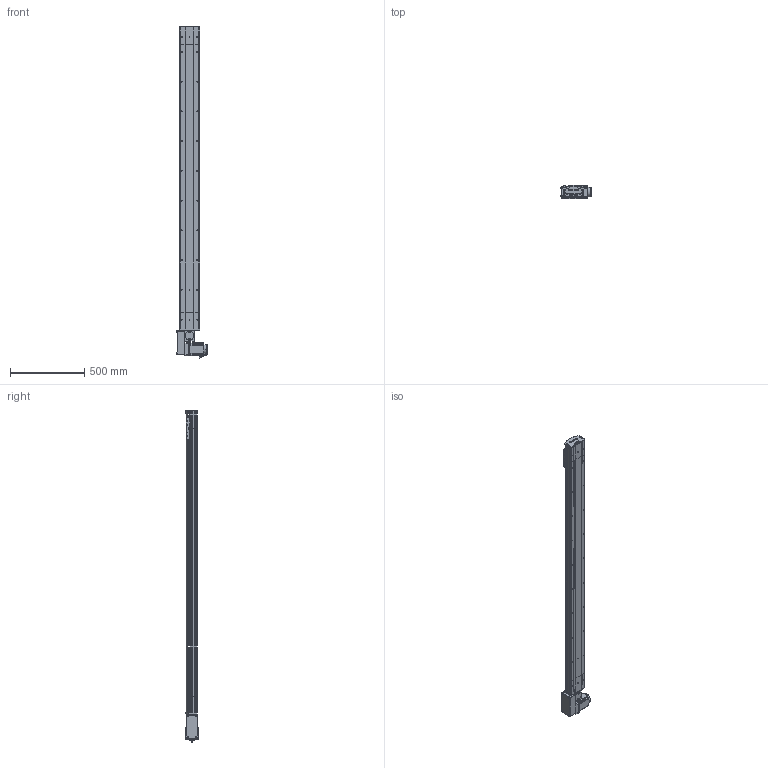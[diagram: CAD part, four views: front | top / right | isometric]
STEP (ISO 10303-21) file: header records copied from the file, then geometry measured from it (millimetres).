
FILE_DESCRIPTION (( 'STEP AP214' ), '1' );
FILE_NAME ('D14 TBH RH S1800.STEP', '2010-06-29T14:10:11', ( 'Conseil Régional Haute-Normandie' ), ( 'Conseil Régional Haute-Normandie' ), 'SwSTEP 2.0', 'SolidWorks 2010', '' );
FILE_SCHEMA (( 'AUTOMOTIVE_DESIGN' ));
Length unit declared in the file: millimetre
Products named in the file (39): Cache arbre_Default; Vis M5 L16-2_Default; vis M5 L5_Default; vis M5 L12_Default; chariot D14B_Default; Cvis M5 L70_Default; renvoi RH_Default; guide D14; Chariot D14; D14 TB H RH_Default; D14 TBH RH S1800; D14 couroie L1800_Default; couvercle D14_Default; corp head D14_Default; tete d''axe haut D14; plaque de  bout tail D14_Default; Couroie_Default; poulie tail_Default; vis M5 L8 90°_Default; couvercle D14 course L1800_Default; Rail + couroie D14 Course 1800 ; corpl tail D14_Default; Arbre+rail tail D14; vis M5 L16_Default; Tail D14B_Default; corpl 1800_Default; couroie 2_Default; Plaque racord D14_Default; Conecteur_Default; Moteur motionking 90BLDC100A-640; couvercle D14 head_Default; codeur 90BLDC100-640; corps 90BLDC100A-640; avant 90BLDC100A-640; poulie head_Default; Cache_Default; Conecteur2_Default; plaque de  bout head D14 RH_Default; Arbre+rail head D14
Assembly tree (68 placements, depth 4):
  D14 TBH RH S1800
    Tail D14B_Default
      vis M5 L12_Default  x4
      tete d''axe haut D14
      vis M5 L16_Default  x2
      plaque de  bout tail D14_Default
      couvercle D14_Default
      Arbre+rail tail D14
      vis M5 L8 90°_Default  x2
      poulie tail_Default
      Couroie_Default
      corpl tail D14_Default
    D14 couroie L1800_Default
      corpl 1800_Default
      couvercle D14 course L1800_Default
      Rail + couroie D14 Course 1800 
    chariot D14B_Default
      vis M5 L12_Default  x4
      guide D14  x2
      Chariot D14
    D14 TB H RH_Default
      Cvis M5 L70_Default  x4
      vis M5 L12_Default  x12
      Arbre+rail head D14
      vis M5 L5_Default  x2
      Cache_Default  x2
      couroie 2_Default
      Cache arbre_Default
      Vis M5 L16-2_Default  x4
      couvercle D14 head_Default
      plaque de  bout head D14 RH_Default
      renvoi RH_Default
      Plaque racord D14_Default
      corp head D14_Default
      Moteur motionking 90BLDC100A-640
        codeur 90BLDC100-640
        corps 90BLDC100A-640
        Conecteur_Default
        Conecteur2_Default
        avant 90BLDC100A-640
      poulie head_Default
Bounding box: 207.2 x 85.9 x 2232.45 mm (x, y, z)
Volume: 8518141 mm3; surface area: 2957404.1 mm2
Topology: 92 solids, 92 shells, 2677 faces, 6539 edges, 4218 vertices
Faces by surface type: plane 1601, cylinder 763, bspline 136, torus 89, cone 84, sphere 4
Entity records: 80576 total; most frequent: CARTESIAN_POINT 23773, ORIENTED_EDGE 9938, DIRECTION 9772, EDGE_CURVE 4969, LINE 3310, VECTOR 3310, VERTEX_POINT 3268, AXIS2_PLACEMENT_3D 3231
